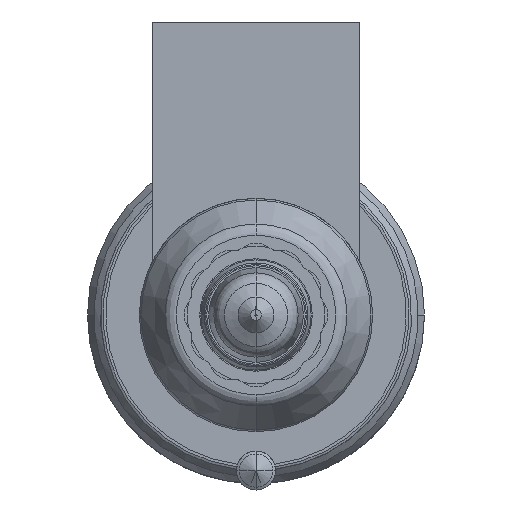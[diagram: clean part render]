
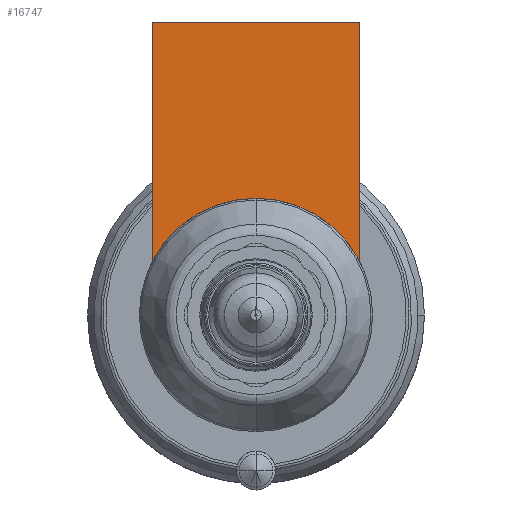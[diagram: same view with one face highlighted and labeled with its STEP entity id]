
A CAD part, front view. The second image highlights one B-rep face of the part: STEP entity #16747.
In plain terms, the highlighted planar face has unit normal (0, -1, 0).
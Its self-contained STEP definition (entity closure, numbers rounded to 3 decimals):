
#15114=DIRECTION('',(0.,0.,-1.));
#15115=VECTOR('',#15114,18.481);
#15116=CARTESIAN_POINT('',(-8.,-54.,22.604));
#15117=LINE('',#15116,#15115);
#15738=CARTESIAN_POINT('',(0.,-54.,0.));
#15739=DIRECTION('',(0.,-1.,0.));
#15740=DIRECTION('',(0.,0.,1.));
#15741=AXIS2_PLACEMENT_3D('',#15738,#15739,#15740);
#15746=DIRECTION('',(1.,0.,0.));
#15747=VECTOR('',#15746,16.);
#15748=CARTESIAN_POINT('',(-8.,-54.,22.604));
#15749=LINE('',#15748,#15747);
#15753=CARTESIAN_POINT('',(0.,-54.,0.));
#15754=DIRECTION('',(0.,-1.,0.));
#15755=DIRECTION('',(0.889,0.,0.458));
#15756=AXIS2_PLACEMENT_3D('',#15753,#15754,#15755);
#15835=DIRECTION('',(0.,0.,-1.));
#15836=VECTOR('',#15835,18.481);
#15837=CARTESIAN_POINT('',(8.,-54.,22.604));
#15838=LINE('',#15837,#15836);
#15944=CARTESIAN_POINT('',(-8.,-54.,22.604));
#15945=VERTEX_POINT('',#15944);
#15950=CARTESIAN_POINT('',(8.,-54.,22.604));
#15951=VERTEX_POINT('',#15950);
#15953=CARTESIAN_POINT('',(-8.,-54.,4.123));
#15955=VERTEX_POINT('',#15953);
#15957=CARTESIAN_POINT('',(8.,-54.,4.123));
#15959=VERTEX_POINT('',#15957);
#15960=CARTESIAN_POINT('',(0.,-54.,9.));
#15961=VERTEX_POINT('',#15960);
#16733=CARTESIAN_POINT('',(-8.,-54.,22.604));
#16734=DIRECTION('',(0.,-1.,0.));
#16735=DIRECTION('',(0.,0.,-1.));
#16736=AXIS2_PLACEMENT_3D('',#16733,#16734,#16735);
#16737=PLANE('',#16736);
#16738=ORIENTED_EDGE('',*,*,#16001,.T.);
#16739=ORIENTED_EDGE('',*,*,#15984,.F.);
#16741=ORIENTED_EDGE('',*,*,#16740,.T.);
#16743=ORIENTED_EDGE('',*,*,#16742,.T.);
#16744=ORIENTED_EDGE('',*,*,#16049,.T.);
#16745=EDGE_LOOP('',(#16738,#16739,#16741,#16743,#16744));
#16746=FACE_OUTER_BOUND('',#16745,.F.);
#16747=ADVANCED_FACE('',(#16746),#16737,.T.);
#15742=CIRCLE('',#15741,9.);
#15757=CIRCLE('',#15756,9.);
#15984=EDGE_CURVE('',#15945,#15955,#15117,.T.);
#16001=EDGE_CURVE('',#15961,#15955,#15742,.T.);
#16049=EDGE_CURVE('',#15959,#15961,#15757,.T.);
#16740=EDGE_CURVE('',#15945,#15951,#15749,.T.);
#16742=EDGE_CURVE('',#15951,#15959,#15838,.T.);
